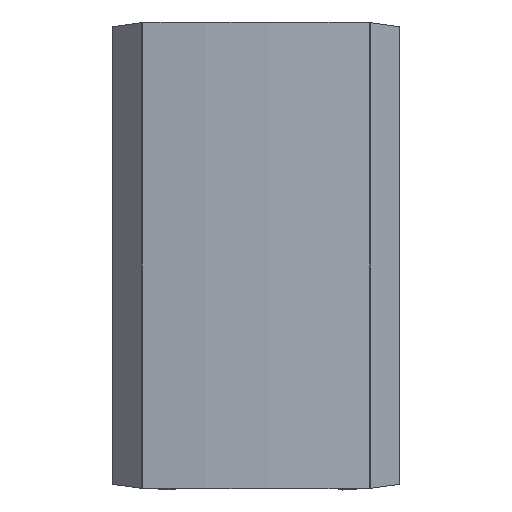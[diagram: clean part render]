
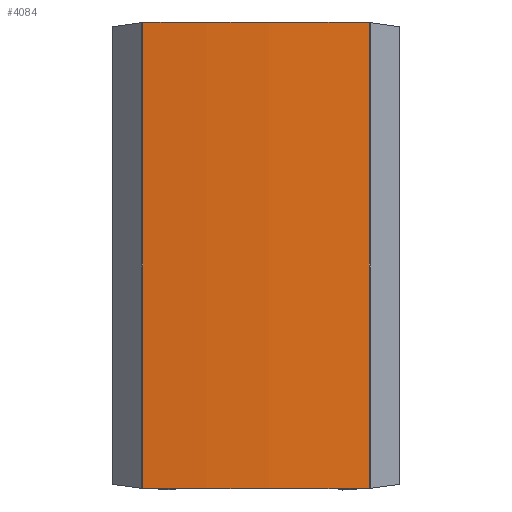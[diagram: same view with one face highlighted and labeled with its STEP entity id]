
A CAD part, top view. The second image highlights one B-rep face of the part: STEP entity #4084.
In plain terms, the highlighted free-form (B-spline) face has degree [3, 1] with [8, 2] control points.
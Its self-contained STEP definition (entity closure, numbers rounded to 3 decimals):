
#156 = ORIENTED_EDGE ( 'NONE', *, *, #11766, .T. ) ;
#227 = CARTESIAN_POINT ( 'NONE',  ( 51.301, 484.598, 191.865 ) ) ;
#427 = FACE_OUTER_BOUND ( 'NONE', #1474, .T. ) ;
#449 = CARTESIAN_POINT ( 'NONE',  ( 106.889, 484.598, 189.516 ) ) ;
#631 = CARTESIAN_POINT ( 'NONE',  ( -55.628, 480.4, 191.771 ) ) ;
#675 = CARTESIAN_POINT ( 'NONE',  ( 166.536, 479.542, 184.785 ) ) ;
#1083 = CARTESIAN_POINT ( 'NONE',  ( -166.533, -210.276, 184.787 ) ) ;
#1127 = CARTESIAN_POINT ( 'NONE',  ( 25.622, -210.276, 192.406 ) ) ;
#1162 = CARTESIAN_POINT ( 'NONE',  ( 55.557, -206.078, 191.771 ) ) ;
#1216 = CARTESIAN_POINT ( 'NONE',  ( -166.533, 484.598, 184.787 ) ) ;
#1299 = CARTESIAN_POINT ( 'NONE',  ( 27.765, -206.156, 192.406 ) ) ;
#1474 = EDGE_LOOP ( 'NONE', ( #5606, #9540, #156, #12982 ) ) ;
#1616 = CARTESIAN_POINT ( 'NONE',  ( 111.113, 480.088, 189.229 ) ) ;
#1812 = CARTESIAN_POINT ( 'NONE',  ( 166.536, 1029.648, 184.785 ) ) ;
#2148 = CARTESIAN_POINT ( 'NONE',  ( -166.533, -205.22, 184.787 ) ) ;
#2276 = EDGE_CURVE ( 'NONE', #4926, #6695, #13008, .T. ) ;
#3703 = CARTESIAN_POINT ( 'NONE',  ( 51.301, -210.276, 191.865 ) ) ;
#4084 = ADVANCED_FACE ( 'NONE', ( #427 ), #8637, .F. ) ;
#4926 = VERTEX_POINT ( 'NONE', #11615 ) ;
#5078 = CARTESIAN_POINT ( 'NONE',  ( -166.533, 479.542, 184.787 ) ) ;
#5321 = CARTESIAN_POINT ( 'NONE',  ( -111.085, 484.598, 189.869 ) ) ;
#5606 = ORIENTED_EDGE ( 'NONE', *, *, #8815, .F. ) ;
#5889 = CARTESIAN_POINT ( 'NONE',  ( 27.765, 480.478, 192.406 ) ) ;
#5971 = VECTOR ( 'NONE', #13107, 1000. ) ;
#6689 = CARTESIAN_POINT ( 'NONE',  ( 166.536, -210.276, 184.785 ) ) ;
#6695 = VERTEX_POINT ( 'NONE', #5078 ) ;
#6727 = CARTESIAN_POINT ( 'NONE',  ( 136.72, -210.276, 187.519 ) ) ;
#6823 = CARTESIAN_POINT ( 'NONE',  ( -166.533, 1029.648, 184.787 ) ) ;
#6858 = CARTESIAN_POINT ( 'NONE',  ( -27.85, 480.478, 192.405 ) ) ;
#7017 = CARTESIAN_POINT ( 'NONE',  ( 166.536, -205.22, 184.785 ) ) ;
#7319 = CARTESIAN_POINT ( 'NONE',  ( -138.844, -205.532, 187.325 ) ) ;
#7904 = DIRECTION ( 'NONE',  ( 0., -1., 0. ) ) ;
#8225 = CARTESIAN_POINT ( 'NONE',  ( -111.085, -210.276, 189.869 ) ) ;
#8259 = CARTESIAN_POINT ( 'NONE',  ( 166.536, -205.22, 184.785 ) ) ;
#8304 = CARTESIAN_POINT ( 'NONE',  ( -111.125, -205.766, 189.231 ) ) ;
#8628 = EDGE_CURVE ( 'NONE', #13251, #13082, #10807, .T. ) ;
#8637 = B_SPLINE_SURFACE_WITH_KNOTS ( 'NONE', 3, 1, ( 
 ( #1216, #1083 ),
 ( #5321, #8225 ),
 ( #9225, #12472 ),
 ( #11310, #1127 ),
 ( #227, #3703 ),
 ( #449, #9691 ),
 ( #8639, #6727 ),
 ( #10745, #6689 ) ),
 .UNSPECIFIED., .F., .F., .F.,
 ( 4, 2, 2, 4 ),
 ( 2, 2 ),
 ( -0.041, 0.5, 0.75, 1.041 ),
 ( 0., 1. ),
 .UNSPECIFIED. ) ;
#8639 = CARTESIAN_POINT ( 'NONE',  ( 136.72, 484.598, 187.519 ) ) ;
#8815 = EDGE_CURVE ( 'NONE', #4926, #13251, #9026, .T. ) ;
#8896 = CARTESIAN_POINT ( 'NONE',  ( -111.125, 480.088, 189.231 ) ) ;
#9026 = LINE ( 'NONE', #1812, #5971 ) ;
#9225 = CARTESIAN_POINT ( 'NONE',  ( -55.725, 484.598, 192.403 ) ) ;
#9405 = CARTESIAN_POINT ( 'NONE',  ( 138.847, -205.532, 187.324 ) ) ;
#9407 = LINE ( 'NONE', #6823, #13050 ) ;
#9540 = ORIENTED_EDGE ( 'NONE', *, *, #2276, .T. ) ;
#9691 = CARTESIAN_POINT ( 'NONE',  ( 106.889, -210.276, 189.516 ) ) ;
#10436 = CARTESIAN_POINT ( 'NONE',  ( -55.628, -206.078, 191.771 ) ) ;
#10507 = CARTESIAN_POINT ( 'NONE',  ( -166.533, -205.22, 184.787 ) ) ;
#10745 = CARTESIAN_POINT ( 'NONE',  ( 166.536, 484.598, 184.785 ) ) ;
#10807 = B_SPLINE_CURVE_WITH_KNOTS ( 'NONE', 3,
 ( #8259, #9405, #11347, #1162, #1299, #12364, #10436, #8304, #7319, #2148 ),
 .UNSPECIFIED., .F., .F.,
 ( 4, 2, 2, 2, 4 ),
 ( 0., 0.083, 0.167, 0.25, 0.334 ),
 .UNSPECIFIED. ) ;
#10868 = CARTESIAN_POINT ( 'NONE',  ( -138.844, 479.854, 187.325 ) ) ;
#10909 = CARTESIAN_POINT ( 'NONE',  ( -166.533, 479.542, 184.787 ) ) ;
#10995 = CARTESIAN_POINT ( 'NONE',  ( 138.847, 479.854, 187.324 ) ) ;
#11310 = CARTESIAN_POINT ( 'NONE',  ( 25.622, 484.598, 192.406 ) ) ;
#11347 = CARTESIAN_POINT ( 'NONE',  ( 111.113, -205.766, 189.229 ) ) ;
#11615 = CARTESIAN_POINT ( 'NONE',  ( 166.536, 479.542, 184.785 ) ) ;
#11766 = EDGE_CURVE ( 'NONE', #6695, #13082, #9407, .T. ) ;
#12364 = CARTESIAN_POINT ( 'NONE',  ( -27.85, -206.156, 192.405 ) ) ;
#12472 = CARTESIAN_POINT ( 'NONE',  ( -55.725, -210.276, 192.403 ) ) ;
#12920 = CARTESIAN_POINT ( 'NONE',  ( 55.557, 480.4, 191.771 ) ) ;
#12982 = ORIENTED_EDGE ( 'NONE', *, *, #8628, .F. ) ;
#13008 = B_SPLINE_CURVE_WITH_KNOTS ( 'NONE', 3,
 ( #675, #10995, #1616, #12920, #5889, #6858, #631, #8896, #10868, #10909 ),
 .UNSPECIFIED., .F., .F.,
 ( 4, 2, 2, 2, 4 ),
 ( 0., 0.083, 0.167, 0.25, 0.334 ),
 .UNSPECIFIED. ) ;
#13050 = VECTOR ( 'NONE', #7904, 1000. ) ;
#13082 = VERTEX_POINT ( 'NONE', #10507 ) ;
#13107 = DIRECTION ( 'NONE',  ( 0., -1., 0. ) ) ;
#13251 = VERTEX_POINT ( 'NONE', #7017 ) ;
